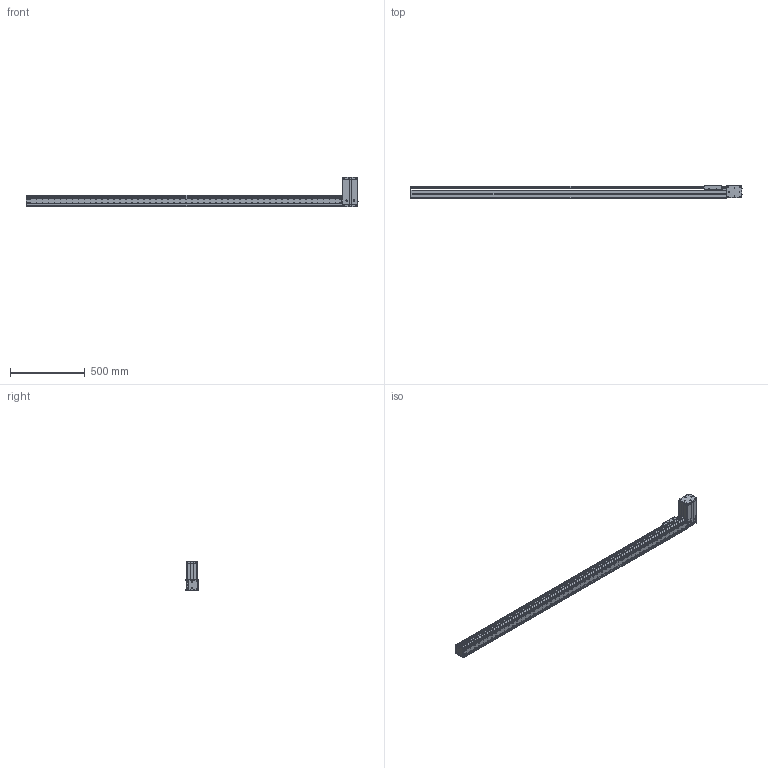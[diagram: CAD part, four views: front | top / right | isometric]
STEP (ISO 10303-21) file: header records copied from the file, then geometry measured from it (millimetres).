
FILE_DESCRIPTION((''),'2;1');
FILE_NAME('BE10_-BR-M_N-K0_IGS_PRT','2017-06-18T',(' '),(''),'PRO/ENGINEER BY PARAMETRIC TECHNOLOGY CORPORATION, 2015030','PRO/ENGINEER BY PARAMETRIC TECHNOLOGY CORPORATION, 2015030','');
FILE_SCHEMA(('CONFIG_CONTROL_DESIGN'));
Products named in the file (1): BE10_-BR-M_N-K0_IGS_PRT
Bounding box: 2220.8 x 85 x 200.22 mm (x, y, z)
Volume: 2878185.8 mm3; surface area: 2035363.7 mm2
Topology: 5 solids, 183 shells, 2398 faces, 6572 edges, 4384 vertices
Faces by surface type: cylinder 1152, plane 1083, cone 107, sphere 28, torus 25, bspline 3
Entity records: 78670 total; most frequent: CARTESIAN_POINT 16308, DIRECTION 13299, ORIENTED_EDGE 12300, EDGE_CURVE 6500, AXIS2_PLACEMENT_3D 4901, VERTEX_POINT 4379, VECTOR 3497, LINE 3497
